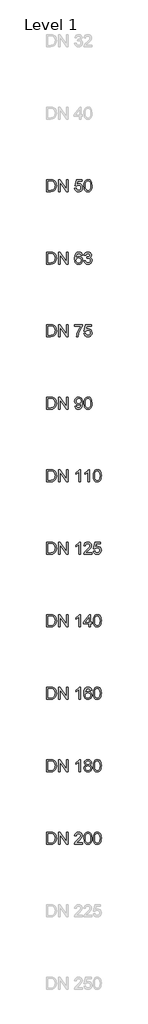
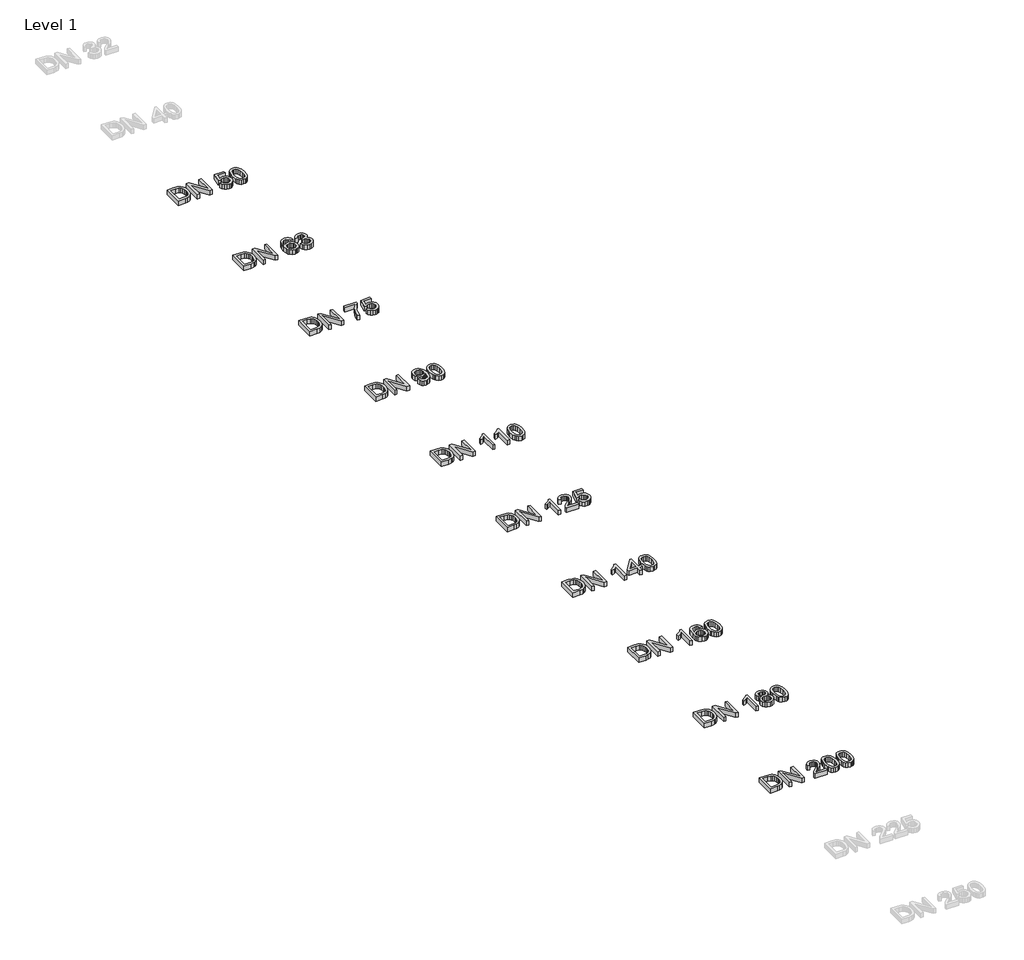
# One storey, part 13 of 17: 10 proxies.
"""IFC4 building model written with IfcOpenShell, lengths in millimetres."""

from ifc_helpers import new_model, si_unit, origin, origin_with_axes, place, context, project, spatial, polyline, outline, extrude, element, save

model = new_model("IFC4")

# Units and contexts
model_context = context("Model", 3, world=origin())
ifc_project = project(units=[si_unit("LENGTHUNIT", "METRE", prefix="MILLI")], contexts=[model_context])

# Site, building, storey
site = spatial("IfcSite", under=ifc_project)
building = spatial("IfcBuilding", under=site)
storey = spatial("IfcBuildingStorey", under=building, Name="Level 1", Elevation=0.0)

# Proxies
placement = place(None, origin())
element("IfcBuildingElementProxy", 1, Name="200mm Arial", ObjectType="200mm Arial", at=placement, inside=storey, context=model_context, shape_type="SweptSolid", body=[
    extrude(outline(polyline([(25539.3076926, -10313.949573), (25539.3076926, -10113.0369527), (25608.6166605, -10113.0369527), (25644.4728923, -10115.9309577), (25660.4880218, -10121.5105013), (25674.0015538, -10130.302881), (25687.8952305, -10145.606772), (25697.7912562, -10164.6385338), (25703.7141563, -10187.0302846), (25705.6884563, -10212.4141423), (25700.3419047, -10252.9547382), (25686.6076435, -10282.2136195), (25668.2625947, -10300.436041), (25644.2521631, -10310.5160077), (25611.9521239, -10313.949573), (25539.3076926, -10313.949573)]), holes=[polyline([(25564.4217702, -10288.8354954), (25608.8619152, -10288.8354954), (25641.1864798, -10285.2057264), (25659.8258342, -10274.9540815), (25668.5507689, -10264.0831685), (25675.1051998, -10250.0116822), (25679.207084, -10232.6783089), (25680.5743788, -10212.0217348), (25677.8949716, -10184.6513144), (25669.85675, -10164.4423301), (25657.9802929, -10150.5609162), (25643.7861793, -10142.1732067), (25608.1752021, -10138.1510302), (25564.4217702, -10138.1510302), (25564.4217702, -10288.8354954)])]), origin_with_axes(), (0.0, 0.0, 1.0), 50.0),
    extrude(outline(polyline([(25740.2203129, -10313.949573), (25740.2203129, -10113.0369527), (25767.100224, -10113.0369527), (25872.06922, -10272.2072292), (25872.06922, -10113.0369527), (25897.1832975, -10113.0369527), (25897.1832975, -10313.949573), (25870.3033864, -10313.949573), (25765.3343905, -10154.7302454), (25765.3343905, -10313.949573), (25740.2203129, -10313.949573)])), origin_with_axes(), (0.0, 0.0, 1.0), 50.0),
    extrude(outline(polyline([(26104.3744372, -10313.949573), (26079.2603597, -10313.949573), (26079.2603597, -10157.3789958), (26055.4706573, -10174.3260931), (26029.0322046, -10187.0057592), (26029.0322046, -10163.2651077), (26065.8449296, -10139.769711), (26079.315542, -10126.1948653), (26088.1876294, -10113.0369527), (26104.3744372, -10113.0369527), (26104.3744372, -10313.949573)])), origin_with_axes(), (0.0, 0.0, 1.0), 50.0),
    extrude(outline(polyline([(26292.7300188, -10166.4043674), (26267.6159412, -10169.5436271), (26258.1000603, -10148.5988789), (26246.7079812, -10140.7629924), (26232.9369318, -10138.1510302), (26210.2754009, -10144.2333458), (26200.8392277, -10153.8411973), (26193.1320999, -10167.066555), (26187.9265697, -10185.7733545), (26185.9951892, -10211.8255311), (26196.0690245, -10200.0717013), (26208.1416853, -10191.7882251), (26221.5387213, -10186.8770005), (26235.5856822, -10185.2399256), (26258.7867733, -10189.7158232), (26278.2599936, -10203.143516), (26291.4669572, -10223.6590686), (26295.8692784, -10249.3985455), (26293.7968765, -10267.3818437), (26287.5796708, -10284.0530295), (26277.7326961, -10298.1919608), (26264.7709871, -10308.5784958), (26249.2831551, -10314.9612484), (26231.8578113, -10317.0888326), (26203.3653508, -10311.4479754), (26180.673163, -10294.5254036), (26172.0141406, -10281.4165418), (26165.8291245, -10264.6533856), (26160.8811117, -10220.1641897), (26166.3748161, -10170.144501), (26173.2419467, -10151.0667539), (26182.8559295, -10135.9437382), (26193.276187, -10125.9220195), (26205.3580449, -10118.763649), (26234.5065616, -10113.0369527), (26256.5426932, -10116.5808825), (26274.1887662, -10127.2126722), (26286.5496012, -10144.0984558), (26292.7300188, -10166.4043674)]), holes=[polyline([(26185.9951892, -10249.0061381), (26191.8077247, -10270.7602267), (26207.2587685, -10286.554627), (26229.895774, -10291.9747551), (26246.4688579, -10289.1665892), (26259.4980119, -10280.7420915), (26267.9409036, -10267.4983397), (26270.7552009, -10250.2324114), (26267.9776918, -10233.6593275), (26259.6451647, -10221.022581), (26246.3952815, -10213.0211476), (26228.8657044, -10210.3540031), (26212.317146, -10213.0211476), (26198.4786516, -10221.022581), (26189.1160548, -10233.3527592), (26185.9951892, -10249.0061381)])]), origin_with_axes(), (0.0, 0.0, 1.0), 50.0),
    extrude(outline(polyline([(26317.8440963, -10215.1119436), (26319.6896376, -10182.9529258), (26325.2262617, -10157.3054194), (26334.3987861, -10137.7770168), (26347.1520286, -10123.9753106), (26363.5779597, -10115.7715422), (26383.7685498, -10113.0369527), (26399.2441191, -10114.6556334), (26413.1010076, -10119.5116758), (26424.6892904, -10127.4150073), (26433.3590428, -10138.1755557), (26445.1312666, -10167.9004209), (26449.6930034, -10215.1119436), (26447.8658561, -10247.0870203), (26442.3844144, -10272.6732131), (26433.2670723, -10292.2200098), (26420.5322239, -10306.0768983), (26404.0695046, -10314.335849), (26383.7685498, -10317.0888326), (26357.6734536, -10312.3063667), (26337.8568768, -10297.9589689), (26329.1012853, -10282.8298218), (26322.8472914, -10263.9789353), (26317.8440963, -10215.1119436)]), holes=[polyline([(26342.9581738, -10215.0628927), (26345.9012298, -10254.5672876), (26354.7303977, -10277.4311536), (26367.8760476, -10288.3388547), (26383.7685498, -10291.9747551), (26399.661052, -10288.326592), (26412.806702, -10277.3821026), (26421.6358699, -10254.5059739), (26424.5789258, -10215.0628927), (26421.7339717, -10176.4475459), (26413.1991094, -10153.4058703), (26400.0779849, -10141.9647402), (26383.4742442, -10138.1510302), (26367.7534203, -10141.5110191), (26355.1228051, -10151.5909857), (26345.9993317, -10176.0674012), (26342.9581738, -10215.0628927)])]), origin_with_axes(), (0.0, 0.0, 1.0), 50.0),
])
element("IfcBuildingElementProxy", 2, Name="200mm Arial", ObjectType="200mm Arial", at=placement, inside=storey, context=model_context, shape_type="SweptSolid", body=[
    extrude(outline(polyline([(25539.3076926, -12713.949573), (25539.3076926, -12513.0369527), (25608.6166605, -12513.0369527), (25644.4728923, -12515.9309577), (25660.4880218, -12521.5105013), (25674.0015538, -12530.302881), (25687.8952305, -12545.606772), (25697.7912562, -12564.6385338), (25703.7141563, -12587.0302846), (25705.6884563, -12612.4141423), (25700.3419047, -12652.9547382), (25686.6076435, -12682.2136195), (25668.2625947, -12700.436041), (25644.2521631, -12710.5160077), (25611.9521239, -12713.949573), (25539.3076926, -12713.949573)]), holes=[polyline([(25564.4217702, -12688.8354954), (25608.8619152, -12688.8354954), (25641.1864798, -12685.2057264), (25659.8258342, -12674.9540815), (25668.5507689, -12664.0831685), (25675.1051998, -12650.0116822), (25679.207084, -12632.6783089), (25680.5743788, -12612.0217348), (25677.8949716, -12584.6513144), (25669.85675, -12564.4423301), (25657.9802929, -12550.5609162), (25643.7861793, -12542.1732067), (25608.1752021, -12538.1510302), (25564.4217702, -12538.1510302), (25564.4217702, -12688.8354954)])]), origin_with_axes(), (0.0, 0.0, 1.0), 50.0),
    extrude(outline(polyline([(25740.2203129, -12713.949573), (25740.2203129, -12513.0369527), (25767.100224, -12513.0369527), (25872.06922, -12672.2072292), (25872.06922, -12513.0369527), (25897.1832975, -12513.0369527), (25897.1832975, -12713.949573), (25870.3033864, -12713.949573), (25765.3343905, -12554.7302454), (25765.3343905, -12713.949573), (25740.2203129, -12713.949573)])), origin_with_axes(), (0.0, 0.0, 1.0), 50.0),
    extrude(outline(polyline([(26138.9062938, -12688.8354954), (26138.9062938, -12713.949573), (26007.0573868, -12713.949573), (26009.7551881, -12696.6345937), (26025.0100281, -12669.9754118), (26056.451676, -12640.8636832), (26099.8127005, -12599.0232377), (26107.9428926, -12584.6022634), (26110.6529566, -12570.5736967), (26108.0961767, -12557.9982638), (26100.4258371, -12547.5442838), (26088.6352192, -12540.4993436), (26073.7176043, -12538.1510302), (26058.0519627, -12540.4441613), (26045.8812, -12547.3235546), (26038.0269194, -12558.2496499), (26035.310724, -12572.6828868), (26010.1966465, -12569.5436271), (26016.2850935, -12545.2511527), (26029.4491375, -12527.5069778), (26049.0020656, -12516.6544589), (26074.2571645, -12513.0369527), (26099.6962045, -12517.0591291), (26119.2123444, -12529.1256586), (26131.6283617, -12547.1518763), (26135.7670341, -12569.0531178), (26131.3033993, -12592.8673456), (26116.4654921, -12617.4909138), (26080.486633, -12651.9001431), (26051.5956336, -12676.0577275), (26040.2648682, -12688.8354954), (26138.9062938, -12688.8354954)])), origin_with_axes(), (0.0, 0.0, 1.0), 50.0),
    extrude(outline(polyline([(26164.0203714, -12615.1119436), (26165.8659127, -12582.9529258), (26171.4025367, -12557.3054194), (26180.5750612, -12537.7770168), (26193.3283037, -12523.9753106), (26209.7542347, -12515.7715422), (26229.9448249, -12513.0369527), (26245.4203942, -12514.6556334), (26259.2772827, -12519.5116758), (26270.8655655, -12527.4150073), (26279.5353179, -12538.1755557), (26291.3075417, -12567.9004209), (26295.8692784, -12615.1119436), (26294.0421312, -12647.0870203), (26288.5606895, -12672.6732131), (26279.4433474, -12692.2200098), (26266.708499, -12706.0768983), (26250.2457797, -12714.335849), (26229.9448249, -12717.0888326), (26203.8497287, -12712.3063667), (26184.0331519, -12697.9589689), (26175.2775604, -12682.8298218), (26169.0235665, -12663.9789353), (26164.0203714, -12615.1119436)]), holes=[polyline([(26189.1344489, -12615.0628927), (26192.0775049, -12654.5672876), (26200.9066728, -12677.4311536), (26214.0523227, -12688.3388547), (26229.9448249, -12691.9747551), (26245.8373271, -12688.326592), (26258.9829771, -12677.3821026), (26267.8121449, -12654.5059739), (26270.7552009, -12615.0628927), (26267.9102468, -12576.4475459), (26259.3753845, -12553.4058703), (26246.25426, -12541.9647402), (26229.6505193, -12538.1510302), (26213.9296954, -12541.5110191), (26201.2990802, -12551.5909857), (26192.1756067, -12576.0674012), (26189.1344489, -12615.0628927)])]), origin_with_axes(), (0.0, 0.0, 1.0), 50.0),
    extrude(outline(polyline([(26317.8440963, -12615.1119436), (26319.6896376, -12582.9529258), (26325.2262617, -12557.3054194), (26334.3987861, -12537.7770168), (26347.1520286, -12523.9753106), (26363.5779597, -12515.7715422), (26383.7685498, -12513.0369527), (26399.2441191, -12514.6556334), (26413.1010076, -12519.5116758), (26424.6892904, -12527.4150073), (26433.3590428, -12538.1755557), (26445.1312666, -12567.9004209), (26449.6930034, -12615.1119436), (26447.8658561, -12647.0870203), (26442.3844144, -12672.6732131), (26433.2670723, -12692.2200098), (26420.5322239, -12706.0768983), (26404.0695046, -12714.335849), (26383.7685498, -12717.0888326), (26357.6734536, -12712.3063667), (26337.8568768, -12697.9589689), (26329.1012853, -12682.8298218), (26322.8472914, -12663.9789353), (26317.8440963, -12615.1119436)]), holes=[polyline([(26342.9581738, -12615.0628927), (26345.9012298, -12654.5672876), (26354.7303977, -12677.4311536), (26367.8760476, -12688.3388547), (26383.7685498, -12691.9747551), (26399.661052, -12688.326592), (26412.806702, -12677.3821026), (26421.6358699, -12654.5059739), (26424.5789258, -12615.0628927), (26421.7339717, -12576.4475459), (26413.1991094, -12553.4058703), (26400.0779849, -12541.9647402), (26383.4742442, -12538.1510302), (26367.7534203, -12541.5110191), (26355.1228051, -12551.5909857), (26345.9993317, -12576.0674012), (26342.9581738, -12615.0628927)])]), origin_with_axes(), (0.0, 0.0, 1.0), 50.0),
])
element("IfcBuildingElementProxy", 3, Name="200mm Arial", ObjectType="200mm Arial", at=placement, inside=storey, context=model_context, shape_type="SweptSolid", body=[
    extrude(outline(polyline([(25539.3076926, -1913.949573), (25539.3076926, -1713.0369527), (25608.6166605, -1713.0369527), (25644.4728923, -1715.9309577), (25660.4880218, -1721.5105013), (25674.0015538, -1730.302881), (25687.8952305, -1745.606772), (25697.7912562, -1764.6385338), (25703.7141563, -1787.0302846), (25705.6884563, -1812.4141423), (25700.3419047, -1852.9547382), (25686.6076435, -1882.2136195), (25668.2625947, -1900.436041), (25644.2521631, -1910.5160077), (25611.9521239, -1913.949573), (25539.3076926, -1913.949573)]), holes=[polyline([(25564.4217702, -1888.8354954), (25608.8619152, -1888.8354954), (25641.1864798, -1885.2057264), (25659.8258342, -1874.9540815), (25668.5507689, -1864.0831685), (25675.1051998, -1850.0116822), (25679.207084, -1832.6783089), (25680.5743788, -1812.0217348), (25677.8949716, -1784.6513144), (25669.85675, -1764.4423301), (25657.9802929, -1750.5609162), (25643.7861793, -1742.1732067), (25608.1752021, -1738.1510302), (25564.4217702, -1738.1510302), (25564.4217702, -1888.8354954)])]), origin_with_axes(), (0.0, 0.0, 1.0), 50.0),
    extrude(outline(polyline([(25740.2203129, -1913.949573), (25740.2203129, -1713.0369527), (25767.100224, -1713.0369527), (25872.06922, -1872.2072292), (25872.06922, -1713.0369527), (25897.1832975, -1713.0369527), (25897.1832975, -1913.949573), (25870.3033864, -1913.949573), (25765.3343905, -1754.7302454), (25765.3343905, -1913.949573), (25740.2203129, -1913.949573)])), origin_with_axes(), (0.0, 0.0, 1.0), 50.0),
    extrude(outline(polyline([(26010.1966465, -1860.5821582), (26035.310724, -1857.4428985), (26039.9215117, -1872.5199289), (26047.9658646, -1883.3172655), (26059.4069947, -1889.8103827), (26074.2081136, -1891.9747551), (26092.2098059, -1888.9642541), (26105.6988124, -1879.9327511), (26114.1233101, -1865.9225785), (26116.931476, -1847.9760685), (26114.3011197, -1831.0780222), (26106.4100509, -1818.1531014), (26093.1969559, -1809.9493329), (26074.6005211, -1807.2147434), (26052.5521268, -1811.5802764), (26038.4499837, -1822.9110419), (26013.3359061, -1819.7717822), (26035.310724, -1716.1762123), (26132.6277745, -1716.1762123), (26132.6277745, -1741.2902899), (26055.6178101, -1741.2902899), (26044.8756559, -1796.619742), (26062.8160345, -1785.7304349), (26081.6148045, -1782.1006659), (26105.0795444, -1786.601089), (26124.558896, -1800.1023582), (26137.6738892, -1820.6792244), (26142.0455535, -1846.4064386), (26138.1092162, -1871.5205162), (26126.3002041, -1893.0048247), (26115.8646182, -1903.5415782), (26103.6877242, -1911.0678307), (26089.769522, -1915.5835821), (26074.1100118, -1917.0888326), (26049.443524, -1913.2199403), (26029.7924941, -1901.6132634), (26016.3218817, -1883.6177025), (26010.1966465, -1860.5821582)])), origin_with_axes(), (0.0, 0.0, 1.0), 50.0),
    extrude(outline(polyline([(26164.0203714, -1815.1119436), (26165.8659127, -1782.9529258), (26171.4025367, -1757.3054194), (26180.5750612, -1737.7770168), (26193.3283037, -1723.9753106), (26209.7542347, -1715.7715422), (26229.9448249, -1713.0369527), (26245.4203942, -1714.6556334), (26259.2772827, -1719.5116758), (26270.8655655, -1727.4150073), (26279.5353179, -1738.1755557), (26291.3075417, -1767.9004209), (26295.8692784, -1815.1119436), (26294.0421312, -1847.0870203), (26288.5606895, -1872.6732131), (26279.4433474, -1892.2200098), (26266.708499, -1906.0768983), (26250.2457797, -1914.335849), (26229.9448249, -1917.0888326), (26203.8497287, -1912.3063667), (26184.0331519, -1897.9589689), (26175.2775604, -1882.8298218), (26169.0235665, -1863.9789353), (26164.0203714, -1815.1119436)]), holes=[polyline([(26189.1344489, -1815.0628927), (26192.0775049, -1854.5672876), (26200.9066728, -1877.4311536), (26214.0523227, -1888.3388547), (26229.9448249, -1891.9747551), (26245.8373271, -1888.326592), (26258.9829771, -1877.3821026), (26267.8121449, -1854.5059739), (26270.7552009, -1815.0628927), (26267.9102468, -1776.4475459), (26259.3753845, -1753.4058703), (26246.25426, -1741.9647402), (26229.6505193, -1738.1510302), (26213.9296954, -1741.5110191), (26201.2990802, -1751.5909857), (26192.1756067, -1776.0674012), (26189.1344489, -1815.0628927)])]), origin_with_axes(), (0.0, 0.0, 1.0), 50.0),
])
element("IfcBuildingElementProxy", 4, Name="200mm Arial", ObjectType="200mm Arial", at=placement, inside=storey, context=model_context, shape_type="SweptSolid", body=[
    extrude(outline(polyline([(25539.3076926, -3113.949573), (25539.3076926, -2913.0369527), (25608.6166605, -2913.0369527), (25644.4728923, -2915.9309577), (25660.4880218, -2921.5105013), (25674.0015538, -2930.302881), (25687.8952305, -2945.606772), (25697.7912562, -2964.6385338), (25703.7141563, -2987.0302846), (25705.6884563, -3012.4141423), (25700.3419047, -3052.9547382), (25686.6076435, -3082.2136195), (25668.2625947, -3100.436041), (25644.2521631, -3110.5160077), (25611.9521239, -3113.949573), (25539.3076926, -3113.949573)]), holes=[polyline([(25564.4217702, -3088.8354954), (25608.8619152, -3088.8354954), (25641.1864798, -3085.2057264), (25659.8258342, -3074.9540815), (25668.5507689, -3064.0831685), (25675.1051998, -3050.0116822), (25679.207084, -3032.6783089), (25680.5743788, -3012.0217348), (25677.8949716, -2984.6513144), (25669.85675, -2964.4423301), (25657.9802929, -2950.5609162), (25643.7861793, -2942.1732067), (25608.1752021, -2938.1510302), (25564.4217702, -2938.1510302), (25564.4217702, -3088.8354954)])]), origin_with_axes(), (0.0, 0.0, 1.0), 50.0),
    extrude(outline(polyline([(25740.2203129, -3113.949573), (25740.2203129, -2913.0369527), (25767.100224, -2913.0369527), (25872.06922, -3072.2072292), (25872.06922, -2913.0369527), (25897.1832975, -2913.0369527), (25897.1832975, -3113.949573), (25870.3033864, -3113.949573), (25765.3343905, -2954.7302454), (25765.3343905, -3113.949573), (25740.2203129, -3113.949573)])), origin_with_axes(), (0.0, 0.0, 1.0), 50.0),
    extrude(outline(polyline([(26138.9062938, -2966.4043674), (26113.7922163, -2969.5436271), (26104.2763354, -2948.5988789), (26092.8842562, -2940.7629924), (26079.1132069, -2938.1510302), (26056.451676, -2944.2333458), (26047.0155028, -2953.8411973), (26039.308375, -2967.066555), (26034.1028448, -2985.7733545), (26032.1714643, -3011.8255311), (26042.2452996, -3000.0717013), (26054.3179604, -2991.7882251), (26067.7149964, -2986.8770005), (26081.7619573, -2985.2399256), (26104.9630484, -2989.7158232), (26124.4362687, -3003.143516), (26137.6432323, -3023.6590686), (26142.0455535, -3049.3985455), (26139.9731516, -3067.3818437), (26133.7559459, -3084.0530295), (26123.9089712, -3098.1919608), (26110.9472622, -3108.5784958), (26095.4594302, -3114.9612484), (26078.0340864, -3117.0888326), (26049.5416258, -3111.4479754), (26026.8494381, -3094.5254036), (26018.1904156, -3081.4165418), (26012.0053996, -3064.6533856), (26007.0573868, -3020.1641897), (26012.5510912, -2970.144501), (26019.4182218, -2951.0667539), (26029.0322046, -2935.9437382), (26039.4524621, -2925.9220195), (26051.53432, -2918.763649), (26080.6828367, -2913.0369527), (26102.7189682, -2916.5808825), (26120.3650413, -2927.2126722), (26132.7258763, -2944.0984558), (26138.9062938, -2966.4043674)]), holes=[polyline([(26032.1714643, -3049.0061381), (26037.9839998, -3070.7602267), (26053.4350436, -3086.554627), (26076.0720491, -3091.9747551), (26092.6451329, -3089.1665892), (26105.6742869, -3080.7420915), (26114.1171787, -3067.4983397), (26116.931476, -3050.2324114), (26114.1539669, -3033.6593275), (26105.8214397, -3021.022581), (26092.5715565, -3013.0211476), (26075.0419795, -3010.3540031), (26058.4934211, -3013.0211476), (26044.6549267, -3021.022581), (26035.2923299, -3033.3527592), (26032.1714643, -3049.0061381)])]), origin_with_axes(), (0.0, 0.0, 1.0), 50.0),
    extrude(outline(polyline([(26164.0203714, -3060.5821582), (26189.1344489, -3057.4428985), (26194.7569121, -3073.2250361), (26202.9913374, -3083.8813512), (26214.2423951, -3089.9514041), (26228.9147553, -3091.9747551), (26246.1316327, -3089.1911147), (26259.4244355, -3080.8401934), (26267.9225095, -3068.3812565), (26270.7552009, -3053.2735692), (26267.947035, -3038.9323028), (26259.5225373, -3027.3011004), (26246.7692948, -3019.5939726), (26230.9748945, -3017.02493), (26213.3656097, -3019.7717822), (26216.1615128, -2994.6577047), (26220.1836893, -2994.9520102), (26235.2300629, -2993.1493885), (26248.6822812, -2987.7415231), (26258.1736367, -2978.5935242), (26261.3374218, -2965.5705016), (26259.0442907, -2954.7241141), (26252.1648974, -2945.925603), (26241.6679978, -2940.0946734), (26228.5223479, -2938.1510302), (26215.3521724, -2940.1130675), (26204.5854927, -2945.9991794), (26196.7250807, -2955.809366), (26192.2737086, -2969.5436271), (26167.1596311, -2966.4043674), (26174.5540592, -2943.8532011), (26187.7119719, -2927.0164685), (26205.7136642, -2916.5318316), (26227.6394311, -2913.0369527), (26243.4277, -2914.7598667), (26257.928382, -2919.9286087), (26270.154327, -2928.0833263), (26279.1183849, -2938.7641669), (26284.6182208, -2951.0698196), (26286.4514994, -2964.0989736), (26284.7101913, -2976.2390794), (26279.4862669, -2987.2510138), (26270.8533028, -2996.6320047), (26258.8848752, -3003.87928), (26274.6056991, -3010.2313758), (26286.2552956, -3021.0471064), (26293.4657827, -3035.7378608), (26295.8692784, -3053.7150276), (26291.062287, -3078.191443), (26276.6413128, -3098.645682), (26254.8749614, -3112.478045), (26228.0318385, -3117.0888326), (26203.7516269, -3113.1524953), (26183.984101, -3101.3434833), (26170.2375771, -3083.2804773), (26164.0203714, -3060.5821582)])), origin_with_axes(), (0.0, 0.0, 1.0), 50.0),
])
element("IfcBuildingElementProxy", 5, Name="200mm Arial", ObjectType="200mm Arial", at=placement, inside=storey, context=model_context, shape_type="SweptSolid", body=[
    extrude(outline(polyline([(25539.3076926, -4313.949573), (25539.3076926, -4113.0369527), (25608.6166605, -4113.0369527), (25644.4728923, -4115.9309577), (25660.4880218, -4121.5105013), (25674.0015538, -4130.302881), (25687.8952305, -4145.606772), (25697.7912562, -4164.6385338), (25703.7141563, -4187.0302846), (25705.6884563, -4212.4141423), (25700.3419047, -4252.9547382), (25686.6076435, -4282.2136195), (25668.2625947, -4300.436041), (25644.2521631, -4310.5160077), (25611.9521239, -4313.949573), (25539.3076926, -4313.949573)]), holes=[polyline([(25564.4217702, -4288.8354954), (25608.8619152, -4288.8354954), (25641.1864798, -4285.2057264), (25659.8258342, -4274.9540815), (25668.5507689, -4264.0831685), (25675.1051998, -4250.0116822), (25679.207084, -4232.6783089), (25680.5743788, -4212.0217348), (25677.8949716, -4184.6513144), (25669.85675, -4164.4423301), (25657.9802929, -4150.5609162), (25643.7861793, -4142.1732067), (25608.1752021, -4138.1510302), (25564.4217702, -4138.1510302), (25564.4217702, -4288.8354954)])]), origin_with_axes(), (0.0, 0.0, 1.0), 50.0),
    extrude(outline(polyline([(25740.2203129, -4313.949573), (25740.2203129, -4113.0369527), (25767.100224, -4113.0369527), (25872.06922, -4272.2072292), (25872.06922, -4113.0369527), (25897.1832975, -4113.0369527), (25897.1832975, -4313.949573), (25870.3033864, -4313.949573), (25765.3343905, -4154.7302454), (25765.3343905, -4313.949573), (25740.2203129, -4313.949573)])), origin_with_axes(), (0.0, 0.0, 1.0), 50.0),
    extrude(outline(polyline([(26010.1966465, -4141.2902899), (26010.1966465, -4116.1762123), (26142.0455535, -4116.1762123), (26142.0455535, -4136.4832985), (26123.2529149, -4160.2668695), (26104.6442174, -4190.5129008), (26088.230549, -4224.4622776), (26076.0229981, -4259.3558849), (26066.7033209, -4313.949573), (26041.5892434, -4313.949573), (26044.3054388, -4288.0629432), (26051.5711082, -4257.2957457), (26063.1900479, -4224.6830068), (26078.9660541, -4193.2597531), (26097.3846793, -4164.8531317), (26116.931476, -4141.2902899), (26010.1966465, -4141.2902899)])), origin_with_axes(), (0.0, 0.0, 1.0), 50.0),
    extrude(outline(polyline([(26164.0203714, -4260.5821582), (26189.1344489, -4257.4428985), (26193.7452366, -4272.5199289), (26201.7895895, -4283.3172655), (26213.2307196, -4289.8103827), (26228.0318385, -4291.9747551), (26246.0335308, -4288.9642541), (26259.5225373, -4279.9327511), (26267.947035, -4265.9225785), (26270.7552009, -4247.9760685), (26268.1248446, -4231.0780222), (26260.2337758, -4218.1531014), (26247.0206809, -4209.9493329), (26228.424246, -4207.2147434), (26206.3758518, -4211.5802764), (26192.2737086, -4222.9110419), (26167.1596311, -4219.7717822), (26189.1344489, -4116.1762123), (26286.4514994, -4116.1762123), (26286.4514994, -4141.2902899), (26209.441535, -4141.2902899), (26198.6993808, -4196.619742), (26216.6397594, -4185.7304349), (26235.4385294, -4182.1006659), (26258.9032693, -4186.601089), (26278.3826209, -4200.1023582), (26291.4976141, -4220.6792244), (26295.8692784, -4246.4064386), (26291.9329411, -4271.5205162), (26280.123929, -4293.0048247), (26269.6883431, -4303.5415782), (26257.5114491, -4311.0678307), (26243.5932469, -4315.5835821), (26227.9337367, -4317.0888326), (26203.2672489, -4313.2199403), (26183.616219, -4301.6132634), (26170.1456066, -4283.6177025), (26164.0203714, -4260.5821582)])), origin_with_axes(), (0.0, 0.0, 1.0), 50.0),
])
element("IfcBuildingElementProxy", 6, Name="200mm Arial", ObjectType="200mm Arial", at=placement, inside=storey, context=model_context, shape_type="SweptSolid", body=[
    extrude(outline(polyline([(25539.3076926, -5513.949573), (25539.3076926, -5313.0369527), (25608.6166605, -5313.0369527), (25644.4728923, -5315.9309577), (25660.4880218, -5321.5105013), (25674.0015538, -5330.302881), (25687.8952305, -5345.606772), (25697.7912562, -5364.6385338), (25703.7141563, -5387.0302846), (25705.6884563, -5412.4141423), (25700.3419047, -5452.9547382), (25686.6076435, -5482.2136195), (25668.2625947, -5500.436041), (25644.2521631, -5510.5160077), (25611.9521239, -5513.949573), (25539.3076926, -5513.949573)]), holes=[polyline([(25564.4217702, -5488.8354954), (25608.8619152, -5488.8354954), (25641.1864798, -5485.2057264), (25659.8258342, -5474.9540815), (25668.5507689, -5464.0831685), (25675.1051998, -5450.0116822), (25679.207084, -5432.6783089), (25680.5743788, -5412.0217348), (25677.8949716, -5384.6513144), (25669.85675, -5364.4423301), (25657.9802929, -5350.5609162), (25643.7861793, -5342.1732067), (25608.1752021, -5338.1510302), (25564.4217702, -5338.1510302), (25564.4217702, -5488.8354954)])]), origin_with_axes(), (0.0, 0.0, 1.0), 50.0),
    extrude(outline(polyline([(25740.2203129, -5513.949573), (25740.2203129, -5313.0369527), (25767.100224, -5313.0369527), (25872.06922, -5472.2072292), (25872.06922, -5313.0369527), (25897.1832975, -5313.0369527), (25897.1832975, -5513.949573), (25870.3033864, -5513.949573), (25765.3343905, -5354.7302454), (25765.3343905, -5513.949573), (25740.2203129, -5513.949573)])), origin_with_axes(), (0.0, 0.0, 1.0), 50.0),
    extrude(outline(polyline([(26013.3359061, -5463.7214179), (26038.4499837, -5460.5821582), (26042.7419403, -5474.8375855), (26049.7316982, -5484.5435388), (26059.2475791, -5490.116951), (26071.1179049, -5491.9747551), (26091.4495165, -5487.1922892), (26105.2328285, -5474.4145212), (26113.4488598, -5452.5868562), (26117.0786288, -5423.4506021), (26116.931476, -5418.5455089), (26108.2310668, -5429.1650358), (26096.8451191, -5437.5772708), (26083.5952359, -5443.0587125), (26069.3030203, -5444.8858597), (26046.4023661, -5440.4222249), (26027.3399474, -5427.0313202), (26014.4824717, -5406.3440894), (26010.1966465, -5379.9914758), (26014.6909382, -5352.7682081), (26028.1738133, -5331.4310524), (26048.4257171, -5317.6354776), (26073.227095, -5313.0369527), (26091.9584199, -5315.6611776), (26109.0097504, -5323.5338523), (26123.271309, -5336.2625693), (26133.6333186, -5353.4549212), (26139.9424948, -5377.2200981), (26142.0455535, -5409.6672901), (26139.9486262, -5444.070388), (26133.657844, -5470.6621249), (26123.2283895, -5490.6442486), (26108.7154448, -5505.2185069), (26090.7444093, -5514.1212512), (26069.9406825, -5517.0888326), (26048.4686367, -5513.5878223), (26031.3375984, -5503.0847914), (26019.3569081, -5486.2419274), (26013.3359061, -5463.7214179)]), holes=[polyline([(26116.931476, -5379.4028646), (26114.221412, -5362.3821909), (26106.0912199, -5349.2855919), (26093.4728674, -5340.9346706), (26077.2983224, -5338.1510302), (26060.5229034, -5341.1492685), (26047.0829478, -5350.1439832), (26038.25378, -5363.9089012), (26035.310724, -5381.2177491), (26038.0943644, -5396.7362379), (26046.4452857, -5409.0541534), (26059.5541475, -5417.092375), (26076.6116093, -5419.7717822), (26092.6573957, -5417.092375), (26105.5761851, -5409.0541534), (26114.0926533, -5396.2825168), (26116.931476, -5379.4028646)])]), origin_with_axes(), (0.0, 0.0, 1.0), 50.0),
    extrude(outline(polyline([(26164.0203714, -5415.1119436), (26165.8659127, -5382.9529258), (26171.4025367, -5357.3054194), (26180.5750612, -5337.7770168), (26193.3283037, -5323.9753106), (26209.7542347, -5315.7715422), (26229.9448249, -5313.0369527), (26245.4203942, -5314.6556334), (26259.2772827, -5319.5116758), (26270.8655655, -5327.4150073), (26279.5353179, -5338.1755557), (26291.3075417, -5367.9004209), (26295.8692784, -5415.1119436), (26294.0421312, -5447.0870203), (26288.5606895, -5472.6732131), (26279.4433474, -5492.2200098), (26266.708499, -5506.0768983), (26250.2457797, -5514.335849), (26229.9448249, -5517.0888326), (26203.8497287, -5512.3063667), (26184.0331519, -5497.9589689), (26175.2775604, -5482.8298218), (26169.0235665, -5463.9789353), (26164.0203714, -5415.1119436)]), holes=[polyline([(26189.1344489, -5415.0628927), (26192.0775049, -5454.5672876), (26200.9066728, -5477.4311536), (26214.0523227, -5488.3388547), (26229.9448249, -5491.9747551), (26245.8373271, -5488.326592), (26258.9829771, -5477.3821026), (26267.8121449, -5454.5059739), (26270.7552009, -5415.0628927), (26267.9102468, -5376.4475459), (26259.3753845, -5353.4058703), (26246.25426, -5341.9647402), (26229.6505193, -5338.1510302), (26213.9296954, -5341.5110191), (26201.2990802, -5351.5909857), (26192.1756067, -5376.0674012), (26189.1344489, -5415.0628927)])]), origin_with_axes(), (0.0, 0.0, 1.0), 50.0),
])
element("IfcBuildingElementProxy", 7, Name="200mm Arial", ObjectType="200mm Arial", at=placement, inside=storey, context=model_context, shape_type="SweptSolid", body=[
    extrude(outline(polyline([(25539.3076926, -6713.949573), (25539.3076926, -6513.0369527), (25608.6166605, -6513.0369527), (25644.4728923, -6515.9309577), (25660.4880218, -6521.5105013), (25674.0015538, -6530.302881), (25687.8952305, -6545.606772), (25697.7912562, -6564.6385338), (25703.7141563, -6587.0302846), (25705.6884563, -6612.4141423), (25700.3419047, -6652.9547382), (25686.6076435, -6682.2136195), (25668.2625947, -6700.436041), (25644.2521631, -6710.5160077), (25611.9521239, -6713.949573), (25539.3076926, -6713.949573)]), holes=[polyline([(25564.4217702, -6688.8354954), (25608.8619152, -6688.8354954), (25641.1864798, -6685.2057264), (25659.8258342, -6674.9540815), (25668.5507689, -6664.0831685), (25675.1051998, -6650.0116822), (25679.207084, -6632.6783089), (25680.5743788, -6612.0217348), (25677.8949716, -6584.6513144), (25669.85675, -6564.4423301), (25657.9802929, -6550.5609162), (25643.7861793, -6542.1732067), (25608.1752021, -6538.1510302), (25564.4217702, -6538.1510302), (25564.4217702, -6688.8354954)])]), origin_with_axes(), (0.0, 0.0, 1.0), 50.0),
    extrude(outline(polyline([(25740.2203129, -6713.949573), (25740.2203129, -6513.0369527), (25767.100224, -6513.0369527), (25872.06922, -6672.2072292), (25872.06922, -6513.0369527), (25897.1832975, -6513.0369527), (25897.1832975, -6713.949573), (25870.3033864, -6713.949573), (25765.3343905, -6554.7302454), (25765.3343905, -6713.949573), (25740.2203129, -6713.949573)])), origin_with_axes(), (0.0, 0.0, 1.0), 50.0),
    extrude(outline(polyline([(26104.3744372, -6713.949573), (26079.2603597, -6713.949573), (26079.2603597, -6557.3789958), (26055.4706573, -6574.3260931), (26029.0322046, -6587.0057592), (26029.0322046, -6563.2651077), (26065.8449296, -6539.769711), (26079.315542, -6526.1948653), (26088.1876294, -6513.0369527), (26104.3744372, -6513.0369527), (26104.3744372, -6713.949573)])), origin_with_axes(), (0.0, 0.0, 1.0), 50.0),
    extrude(outline(polyline([(26258.1981621, -6713.949573), (26233.0840846, -6713.949573), (26233.0840846, -6557.3789958), (26209.2943822, -6574.3260931), (26182.8559295, -6587.0057592), (26182.8559295, -6563.2651077), (26219.6686545, -6539.769711), (26233.1392669, -6526.1948653), (26242.0113543, -6513.0369527), (26258.1981621, -6513.0369527), (26258.1981621, -6713.949573)])), origin_with_axes(), (0.0, 0.0, 1.0), 50.0),
    extrude(outline(polyline([(26317.8440963, -6615.1119436), (26319.6896376, -6582.9529258), (26325.2262617, -6557.3054194), (26334.3987861, -6537.7770168), (26347.1520286, -6523.9753106), (26363.5779597, -6515.7715422), (26383.7685498, -6513.0369527), (26399.2441191, -6514.6556334), (26413.1010076, -6519.5116758), (26424.6892904, -6527.4150073), (26433.3590428, -6538.1755557), (26445.1312666, -6567.9004209), (26449.6930034, -6615.1119436), (26447.8658561, -6647.0870203), (26442.3844144, -6672.6732131), (26433.2670723, -6692.2200098), (26420.5322239, -6706.0768983), (26404.0695046, -6714.335849), (26383.7685498, -6717.0888326), (26357.6734536, -6712.3063667), (26337.8568768, -6697.9589689), (26329.1012853, -6682.8298218), (26322.8472914, -6663.9789353), (26317.8440963, -6615.1119436)]), holes=[polyline([(26342.9581738, -6615.0628927), (26345.9012298, -6654.5672876), (26354.7303977, -6677.4311536), (26367.8760476, -6688.3388547), (26383.7685498, -6691.9747551), (26399.661052, -6688.326592), (26412.806702, -6677.3821026), (26421.6358699, -6654.5059739), (26424.5789258, -6615.0628927), (26421.7339717, -6576.4475459), (26413.1991094, -6553.4058703), (26400.0779849, -6541.9647402), (26383.4742442, -6538.1510302), (26367.7534203, -6541.5110191), (26355.1228051, -6551.5909857), (26345.9993317, -6576.0674012), (26342.9581738, -6615.0628927)])]), origin_with_axes(), (0.0, 0.0, 1.0), 50.0),
])
element("IfcBuildingElementProxy", 8, Name="200mm Arial", ObjectType="200mm Arial", at=placement, inside=storey, context=model_context, shape_type="SweptSolid", body=[
    extrude(outline(polyline([(25539.3076926, -7913.949573), (25539.3076926, -7713.0369527), (25608.6166605, -7713.0369527), (25644.4728923, -7715.9309577), (25660.4880218, -7721.5105013), (25674.0015538, -7730.302881), (25687.8952305, -7745.606772), (25697.7912562, -7764.6385338), (25703.7141563, -7787.0302846), (25705.6884563, -7812.4141423), (25700.3419047, -7852.9547382), (25686.6076435, -7882.2136195), (25668.2625947, -7900.436041), (25644.2521631, -7910.5160077), (25611.9521239, -7913.949573), (25539.3076926, -7913.949573)]), holes=[polyline([(25564.4217702, -7888.8354954), (25608.8619152, -7888.8354954), (25641.1864798, -7885.2057264), (25659.8258342, -7874.9540815), (25668.5507689, -7864.0831685), (25675.1051998, -7850.0116822), (25679.207084, -7832.6783089), (25680.5743788, -7812.0217348), (25677.8949716, -7784.6513144), (25669.85675, -7764.4423301), (25657.9802929, -7750.5609162), (25643.7861793, -7742.1732067), (25608.1752021, -7738.1510302), (25564.4217702, -7738.1510302), (25564.4217702, -7888.8354954)])]), origin_with_axes(), (0.0, 0.0, 1.0), 50.0),
    extrude(outline(polyline([(25740.2203129, -7913.949573), (25740.2203129, -7713.0369527), (25767.100224, -7713.0369527), (25872.06922, -7872.2072292), (25872.06922, -7713.0369527), (25897.1832975, -7713.0369527), (25897.1832975, -7913.949573), (25870.3033864, -7913.949573), (25765.3343905, -7754.7302454), (25765.3343905, -7913.949573), (25740.2203129, -7913.949573)])), origin_with_axes(), (0.0, 0.0, 1.0), 50.0),
    extrude(outline(polyline([(26104.3744372, -7913.949573), (26079.2603597, -7913.949573), (26079.2603597, -7757.3789958), (26055.4706573, -7774.3260931), (26029.0322046, -7787.0057592), (26029.0322046, -7763.2651077), (26065.8449296, -7739.769711), (26079.315542, -7726.1948653), (26088.1876294, -7713.0369527), (26104.3744372, -7713.0369527), (26104.3744372, -7913.949573)])), origin_with_axes(), (0.0, 0.0, 1.0), 50.0),
    extrude(outline(polyline([(26292.7300188, -7888.8354954), (26292.7300188, -7913.949573), (26160.8811117, -7913.949573), (26163.578913, -7896.6345937), (26178.833753, -7869.9754118), (26210.2754009, -7840.8636832), (26253.6364254, -7799.0232377), (26261.7666175, -7784.6022634), (26264.4766815, -7770.5736967), (26261.9199017, -7757.9982638), (26254.2495621, -7747.5442838), (26242.4589441, -7740.4993436), (26227.5413292, -7738.1510302), (26211.8756876, -7740.4441613), (26199.7049249, -7747.3235546), (26191.8506443, -7758.2496499), (26189.1344489, -7772.6828868), (26164.0203714, -7769.5436271), (26170.1088184, -7745.2511527), (26183.2728625, -7727.5069778), (26202.8257905, -7716.6544589), (26228.0808895, -7713.0369527), (26253.5199294, -7717.0591291), (26273.0360693, -7729.1256586), (26285.4520866, -7747.1518763), (26289.5907591, -7769.0531178), (26285.1271242, -7792.8673456), (26270.289217, -7817.4909138), (26234.3103579, -7851.9001431), (26205.4193586, -7876.0577275), (26194.0885931, -7888.8354954), (26292.7300188, -7888.8354954)])), origin_with_axes(), (0.0, 0.0, 1.0), 50.0),
    extrude(outline(polyline([(26317.8440963, -7860.5821582), (26342.9581738, -7857.4428985), (26347.5689615, -7872.5199289), (26355.6133145, -7883.3172655), (26367.0544445, -7889.8103827), (26381.8555634, -7891.9747551), (26399.8572557, -7888.9642541), (26413.3462622, -7879.9327511), (26421.7707599, -7865.9225785), (26424.5789258, -7847.9760685), (26421.9485696, -7831.0780222), (26414.0575008, -7818.1531014), (26400.8444058, -7809.9493329), (26382.2479709, -7807.2147434), (26360.1995767, -7811.5802764), (26346.0974335, -7822.9110419), (26320.983356, -7819.7717822), (26342.9581738, -7716.1762123), (26440.2752243, -7716.1762123), (26440.2752243, -7741.2902899), (26363.26526, -7741.2902899), (26352.5231057, -7796.619742), (26370.4634843, -7785.7304349), (26389.2622543, -7782.1006659), (26412.7269942, -7786.601089), (26432.2063459, -7800.1023582), (26445.321339, -7820.6792244), (26449.6930034, -7846.4064386), (26445.756666, -7871.5205162), (26433.947654, -7893.0048247), (26423.512068, -7903.5415782), (26411.335174, -7911.0678307), (26397.4169718, -7915.5835821), (26381.7574616, -7917.0888326), (26357.0909738, -7913.2199403), (26337.4399439, -7901.6132634), (26323.9693315, -7883.6177025), (26317.8440963, -7860.5821582)])), origin_with_axes(), (0.0, 0.0, 1.0), 50.0),
])
element("IfcBuildingElementProxy", 9, Name="200mm Arial", ObjectType="200mm Arial", at=placement, inside=storey, context=model_context, shape_type="SweptSolid", body=[
    extrude(outline(polyline([(25539.3076926, -9113.949573), (25539.3076926, -8913.0369527), (25608.6166605, -8913.0369527), (25644.4728923, -8915.9309577), (25660.4880218, -8921.5105013), (25674.0015538, -8930.302881), (25687.8952305, -8945.606772), (25697.7912562, -8964.6385338), (25703.7141563, -8987.0302846), (25705.6884563, -9012.4141423), (25700.3419047, -9052.9547382), (25686.6076435, -9082.2136195), (25668.2625947, -9100.436041), (25644.2521631, -9110.5160077), (25611.9521239, -9113.949573), (25539.3076926, -9113.949573)]), holes=[polyline([(25564.4217702, -9088.8354954), (25608.8619152, -9088.8354954), (25641.1864798, -9085.2057264), (25659.8258342, -9074.9540815), (25668.5507689, -9064.0831685), (25675.1051998, -9050.0116822), (25679.207084, -9032.6783089), (25680.5743788, -9012.0217348), (25677.8949716, -8984.6513144), (25669.85675, -8964.4423301), (25657.9802929, -8950.5609162), (25643.7861793, -8942.1732067), (25608.1752021, -8938.1510302), (25564.4217702, -8938.1510302), (25564.4217702, -9088.8354954)])]), origin_with_axes(), (0.0, 0.0, 1.0), 50.0),
    extrude(outline(polyline([(25740.2203129, -9113.949573), (25740.2203129, -8913.0369527), (25767.100224, -8913.0369527), (25872.06922, -9072.2072292), (25872.06922, -8913.0369527), (25897.1832975, -8913.0369527), (25897.1832975, -9113.949573), (25870.3033864, -9113.949573), (25765.3343905, -8954.7302454), (25765.3343905, -9113.949573), (25740.2203129, -9113.949573)])), origin_with_axes(), (0.0, 0.0, 1.0), 50.0),
    extrude(outline(polyline([(26104.3744372, -9113.949573), (26079.2603597, -9113.949573), (26079.2603597, -8957.3789958), (26055.4706573, -8974.3260931), (26029.0322046, -8987.0057592), (26029.0322046, -8963.2651077), (26065.8449296, -8939.769711), (26079.315542, -8926.1948653), (26088.1876294, -8913.0369527), (26104.3744372, -8913.0369527), (26104.3744372, -9113.949573)])), origin_with_axes(), (0.0, 0.0, 1.0), 50.0),
    extrude(outline(polyline([(26245.6411234, -9113.949573), (26245.6411234, -9066.8606776), (26154.6025923, -9066.8606776), (26154.6025923, -9041.7466), (26251.9196428, -8916.1762123), (26270.7552009, -8916.1762123), (26270.7552009, -9041.7466), (26295.8692784, -9041.7466), (26295.8692784, -9066.8606776), (26270.7552009, -9066.8606776), (26270.7552009, -9113.949573), (26245.6411234, -9113.949573)]), holes=[polyline([(26245.6411234, -9041.7466), (26245.6411234, -8964.1480245), (26185.5046799, -9041.7466), (26245.6411234, -9041.7466)])]), origin_with_axes(), (0.0, 0.0, 1.0), 50.0),
    extrude(outline(polyline([(26317.8440963, -9015.1119436), (26319.6896376, -8982.9529258), (26325.2262617, -8957.3054194), (26334.3987861, -8937.7770168), (26347.1520286, -8923.9753106), (26363.5779597, -8915.7715422), (26383.7685498, -8913.0369527), (26399.2441191, -8914.6556334), (26413.1010076, -8919.5116758), (26424.6892904, -8927.4150073), (26433.3590428, -8938.1755557), (26445.1312666, -8967.9004209), (26449.6930034, -9015.1119436), (26447.8658561, -9047.0870203), (26442.3844144, -9072.6732131), (26433.2670723, -9092.2200098), (26420.5322239, -9106.0768983), (26404.0695046, -9114.335849), (26383.7685498, -9117.0888326), (26357.6734536, -9112.3063667), (26337.8568768, -9097.9589689), (26329.1012853, -9082.8298218), (26322.8472914, -9063.9789353), (26317.8440963, -9015.1119436)]), holes=[polyline([(26342.9581738, -9015.0628927), (26345.9012298, -9054.5672876), (26354.7303977, -9077.4311536), (26367.8760476, -9088.3388547), (26383.7685498, -9091.9747551), (26399.661052, -9088.326592), (26412.806702, -9077.3821026), (26421.6358699, -9054.5059739), (26424.5789258, -9015.0628927), (26421.7339717, -8976.4475459), (26413.1991094, -8953.4058703), (26400.0779849, -8941.9647402), (26383.4742442, -8938.1510302), (26367.7534203, -8941.5110191), (26355.1228051, -8951.5909857), (26345.9993317, -8976.0674012), (26342.9581738, -9015.0628927)])]), origin_with_axes(), (0.0, 0.0, 1.0), 50.0),
])
element("IfcBuildingElementProxy", 10, Name="200mm Arial", ObjectType="200mm Arial", at=placement, inside=storey, context=model_context, shape_type="SweptSolid", body=[
    extrude(outline(polyline([(25539.3076926, -11513.949573), (25539.3076926, -11313.0369527), (25608.6166605, -11313.0369527), (25644.4728923, -11315.9309577), (25660.4880218, -11321.5105013), (25674.0015538, -11330.302881), (25687.8952305, -11345.606772), (25697.7912562, -11364.6385338), (25703.7141563, -11387.0302846), (25705.6884563, -11412.4141423), (25700.3419047, -11452.9547382), (25686.6076435, -11482.2136195), (25668.2625947, -11500.436041), (25644.2521631, -11510.5160077), (25611.9521239, -11513.949573), (25539.3076926, -11513.949573)]), holes=[polyline([(25564.4217702, -11488.8354954), (25608.8619152, -11488.8354954), (25641.1864798, -11485.2057264), (25659.8258342, -11474.9540815), (25668.5507689, -11464.0831685), (25675.1051998, -11450.0116822), (25679.207084, -11432.6783089), (25680.5743788, -11412.0217348), (25677.8949716, -11384.6513144), (25669.85675, -11364.4423301), (25657.9802929, -11350.5609162), (25643.7861793, -11342.1732067), (25608.1752021, -11338.1510302), (25564.4217702, -11338.1510302), (25564.4217702, -11488.8354954)])]), origin_with_axes(), (0.0, 0.0, 1.0), 50.0),
    extrude(outline(polyline([(25740.2203129, -11513.949573), (25740.2203129, -11313.0369527), (25767.100224, -11313.0369527), (25872.06922, -11472.2072292), (25872.06922, -11313.0369527), (25897.1832975, -11313.0369527), (25897.1832975, -11513.949573), (25870.3033864, -11513.949573), (25765.3343905, -11354.7302454), (25765.3343905, -11513.949573), (25740.2203129, -11513.949573)])), origin_with_axes(), (0.0, 0.0, 1.0), 50.0),
    extrude(outline(polyline([(26104.3744372, -11513.949573), (26079.2603597, -11513.949573), (26079.2603597, -11357.3789958), (26055.4706573, -11374.3260931), (26029.0322046, -11387.0057592), (26029.0322046, -11363.2651077), (26065.8449296, -11339.769711), (26079.315542, -11326.1948653), (26088.1876294, -11313.0369527), (26104.3744372, -11313.0369527), (26104.3744372, -11513.949573)])), origin_with_axes(), (0.0, 0.0, 1.0), 50.0),
    extrude(outline(polyline([(26200.6123672, -11403.2906688), (26187.1662802, -11396.6687929), (26177.7301071, -11387.6924722), (26172.1566948, -11376.5456478), (26170.2988908, -11363.4122605), (26174.3455927, -11343.7796247), (26186.4856985, -11327.5560287), (26205.3580449, -11316.6667217), (26229.6014684, -11313.0369527), (26253.9920447, -11316.7525608), (26273.1096457, -11327.8993853), (26285.4704807, -11344.3804986), (26289.5907591, -11364.0989736), (26287.7574804, -11376.8092965), (26282.2576446, -11387.7660486), (26273.0299379, -11396.687187), (26260.0130466, -11403.2906688), (26275.4702218, -11411.255314), (26286.7212795, -11422.9846183), (26293.5822787, -11437.9144959), (26295.8692784, -11455.4808612), (26291.3320672, -11479.4912927), (26277.7204333, -11499.332395), (26256.7021087, -11512.6497232), (26229.9448249, -11517.0888326), (26203.1875411, -11512.6313291), (26182.1692165, -11499.2588186), (26168.5575826, -11479.227644), (26164.0203714, -11454.7941481), (26166.3993416, -11436.5472012), (26173.5362523, -11421.5376158), (26185.0632215, -11410.2804267), (26200.6123672, -11403.2906688)]), holes=[polyline([(26195.4129683, -11364.1480245), (26197.6386544, -11375.110908), (26204.3157126, -11383.8664995), (26215.2479392, -11389.6054586), (26230.2391305, -11391.518445), (26244.8808339, -11389.6177213), (26255.6475136, -11383.9155504), (26262.2693896, -11375.4542645), (26264.4766815, -11365.276196), (26262.1958132, -11354.7118513), (26255.353208, -11345.974654), (26244.4393755, -11340.1069361), (26229.9448249, -11338.1510302), (26215.3583038, -11340.0640166), (26204.4628654, -11345.8029757), (26197.6754426, -11354.2152106), (26195.4129683, -11364.1480245)]), polyline([(26189.1344489, -11453.9112313), (26193.3283037, -11472.8203659), (26199.1347078, -11480.9321639), (26208.1662108, -11486.97156), (26230.1410286, -11491.9747551), (26247.2352787, -11489.3443988), (26260.0620976, -11481.45333), (26268.0819251, -11469.5032966), (26270.7552009, -11454.6960463), (26267.9960859, -11439.6374099), (26259.7187411, -11427.4237277), (26246.5976166, -11419.3303238), (26229.3071628, -11416.6325225), (26212.452036, -11419.2935356), (26199.7539758, -11427.2765749), (26191.7893306, -11439.2572652), (26189.1344489, -11453.9112313)])]), origin_with_axes(), (0.0, 0.0, 1.0), 50.0),
    extrude(outline(polyline([(26317.8440963, -11415.1119436), (26319.6896376, -11382.9529258), (26325.2262617, -11357.3054194), (26334.3987861, -11337.7770168), (26347.1520286, -11323.9753106), (26363.5779597, -11315.7715422), (26383.7685498, -11313.0369527), (26399.2441191, -11314.6556334), (26413.1010076, -11319.5116758), (26424.6892904, -11327.4150073), (26433.3590428, -11338.1755557), (26445.1312666, -11367.9004209), (26449.6930034, -11415.1119436), (26447.8658561, -11447.0870203), (26442.3844144, -11472.6732131), (26433.2670723, -11492.2200098), (26420.5322239, -11506.0768983), (26404.0695046, -11514.335849), (26383.7685498, -11517.0888326), (26357.6734536, -11512.3063667), (26337.8568768, -11497.9589689), (26329.1012853, -11482.8298218), (26322.8472914, -11463.9789353), (26317.8440963, -11415.1119436)]), holes=[polyline([(26342.9581738, -11415.0628927), (26345.9012298, -11454.5672876), (26354.7303977, -11477.4311536), (26367.8760476, -11488.3388547), (26383.7685498, -11491.9747551), (26399.661052, -11488.326592), (26412.806702, -11477.3821026), (26421.6358699, -11454.5059739), (26424.5789258, -11415.0628927), (26421.7339717, -11376.4475459), (26413.1991094, -11353.4058703), (26400.0779849, -11341.9647402), (26383.4742442, -11338.1510302), (26367.7534203, -11341.5110191), (26355.1228051, -11351.5909857), (26345.9993317, -11376.0674012), (26342.9581738, -11415.0628927)])]), origin_with_axes(), (0.0, 0.0, 1.0), 50.0),
])

save(model, "model.ifc")
